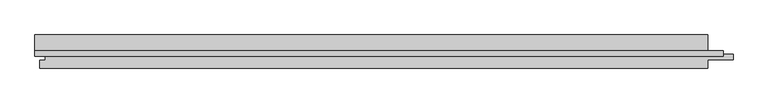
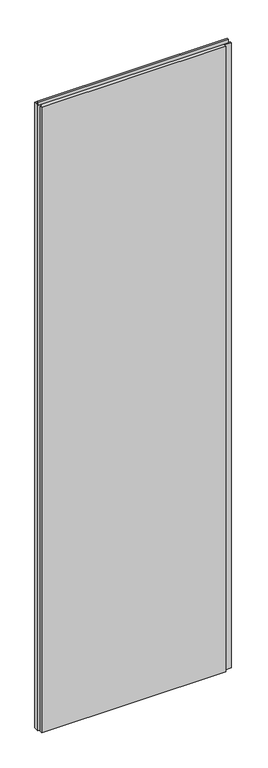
"""IFC4 building model written with IfcOpenShell, lengths in millimetres: plate geometry, Trimo_Qbiss Screen_Normal Panel-VERTICAL : HR - B."""

import ifcopenshell
import ifcopenshell.guid

model = None  # the IFC model being written
_history = None  # IfcOwnerHistory: only IFC2X3 demands one
_inside = {}  # id of a spatial element -> (the spatial element, [elements in it])
_under = {}  # id of a project, library or spatial element -> (it, [spatial elements below it])
_declared = {}  # id of a project -> (the project, [libraries it declares])
_typed = {}  # id of a type object -> (the type object, [elements of that type])
_made_of = {}  # id of a material, layer set ... -> (it, [elements and type objects made of it])


def new_model(schema):
    """Start an empty IFC model of exactly this schema.

    Asked for "IFC4X3", IfcOpenShell would pick the latest addendum, in which some entities
    have other attributes; the version numbers below select the first issue.
    IFC2X3 requires an IfcOwnerHistory on every rooted entity: one is made here for all.
    """
    global model, _history
    if schema == "IFC4X3":
        model = ifcopenshell.file(schema_version=(4, 3, 0, 0))
    else:
        model = ifcopenshell.file(schema=schema)
    _inside.clear()
    _under.clear()
    _declared.clear()
    _typed.clear()
    _made_of.clear()
    _history = None
    if model.schema == "IFC2X3":
        org = make("IfcOrganization", Name="unknown")
        user = make(
            "IfcPersonAndOrganization",
            ThePerson=make("IfcPerson", FamilyName="unknown"),
            TheOrganization=org,
        )
        app = make(
            "IfcApplication",
            ApplicationDeveloper=org,
            Version="unknown",
            ApplicationFullName="unknown",
            ApplicationIdentifier="unknown",
        )
        _history = make(
            "IfcOwnerHistory",
            OwningUser=user,
            OwningApplication=app,
            ChangeAction="ADDED",
            CreationDate=0,
        )
    return model


def make(cls, **values):
    """One entity of the class cls with the attributes given. An attribute that is None is left unset."""
    return model.create_entity(
        cls, **{name: value for name, value in values.items() if value is not None}
    )


def rooted(cls, **values):
    """An entity with a GlobalId (a new one), such as an element, a storey or a relation."""
    return make(cls, GlobalId=ifcopenshell.guid.new(), OwnerHistory=_history, **values)


def si_unit(unit_type, name, prefix=None):
    """IfcSIUnit, for example si_unit("LENGTHUNIT", "METRE", prefix="MILLI")."""
    return make("IfcSIUnit", UnitType=unit_type, Prefix=prefix, Name=name)


def assignment(units):
    """IfcUnitAssignment: the units of a project."""
    return None if units is None else make("IfcUnitAssignment", Units=units)


def point(xyz):
    """IfcCartesianPoint."""
    return None if xyz is None else make("IfcCartesianPoint", Coordinates=xyz)


def direction(xyz):
    """IfcDirection."""
    return None if xyz is None else make("IfcDirection", DirectionRatios=xyz)


def frame(location, z_axis=None, x_axis=None):
    """IfcAxis2Placement3D, a coordinate frame: its origin and axes. An axis left out is left unset."""
    return make(
        "IfcAxis2Placement3D",
        Location=point(location),
        Axis=direction(z_axis),
        RefDirection=direction(x_axis),
    )


def origin():
    """The frame at (0, 0, 0) with its axes left unset."""
    return frame((0.0, 0.0, 0.0))


def place(relative_to, where):
    """IfcLocalPlacement: puts the frame where relative to a parent placement (None: the world)."""
    return make(
        "IfcLocalPlacement", PlacementRelTo=relative_to, RelativePlacement=where
    )


def context(
    kind, dimensions, precision=None, world=None, true_north=None, identifier=None
):
    """IfcGeometricRepresentationContext, for example the 3D "Model" context."""
    return make(
        "IfcGeometricRepresentationContext",
        ContextIdentifier=identifier,
        ContextType=kind,
        CoordinateSpaceDimension=dimensions,
        Precision=precision,
        WorldCoordinateSystem=world,
        TrueNorth=true_north,
    )


def project(units=None, contexts=None):
    """IfcProject with its units and contexts."""
    return rooted(
        "IfcProject",
        Name="project",
        RepresentationContexts=contexts,
        UnitsInContext=assignment(units),
    )


def spatial(cls, under=None, at=None, **own):
    """A site, building, storey or space (cls), placed at a placement, below another one or the project."""
    s = rooted(cls, ObjectPlacement=at, **own)
    if under is not None:
        _under.setdefault(under.id(), (under, []))[1].append(s)
    return s


def polyline(points):
    """IfcPolyline through the points."""
    return make("IfcPolyline", Points=[point(p) for p in points])


def outline(outer, holes=None, kind="AREA"):
    """IfcArbitraryClosedProfileDef: a profile drawn as a closed curve; with holes, ...WithVoids."""
    if holes is None:
        return make("IfcArbitraryClosedProfileDef", ProfileType=kind, OuterCurve=outer)
    return make(
        "IfcArbitraryProfileDefWithVoids",
        ProfileType=kind,
        OuterCurve=outer,
        InnerCurves=holes,
    )


def extrude(swept, where, along, depth):
    """IfcExtrudedAreaSolid: the profile swept, set in the frame where, extruded along a direction by depth."""
    return make(
        "IfcExtrudedAreaSolid",
        SweptArea=swept,
        Position=where,
        ExtrudedDirection=direction(along),
        Depth=depth,
    )


def shape(context_of_items, identifier, shape_type, items):
    """IfcShapeRepresentation: the items that make up one representation, for example the "Body"."""
    return make(
        "IfcShapeRepresentation",
        ContextOfItems=context_of_items,
        RepresentationIdentifier=identifier,
        RepresentationType=shape_type,
        Items=items,
    )


def source(mapping_origin, context_of_items, identifier, shape_type, items):
    """IfcRepresentationMap: a shape defined once, which mapped items show again and again."""
    return make(
        "IfcRepresentationMap",
        MappingOrigin=mapping_origin,
        MappedRepresentation=shape(context_of_items, identifier, shape_type, items),
    )


def transform(
    local_origin,
    x_axis=None,
    y_axis=None,
    z_axis=None,
    scale=None,
    scale2=None,
    scale3=None,
    uniform=True,
):
    """IfcCartesianTransformationOperator3D, or its non-uniform kind. x_axis, y_axis, z_axis: its Axis1, 2, 3."""
    if uniform:
        return make(
            "IfcCartesianTransformationOperator3D",
            Axis1=direction(x_axis),
            Axis2=direction(y_axis),
            LocalOrigin=point(local_origin),
            Scale=scale,
            Axis3=direction(z_axis),
        )
    return make(
        "IfcCartesianTransformationOperator3DnonUniform",
        Axis1=direction(x_axis),
        Axis2=direction(y_axis),
        LocalOrigin=point(local_origin),
        Scale=scale,
        Axis3=direction(z_axis),
        Scale2=scale2,
        Scale3=scale3,
    )


def mapped(mapping_source, mapping_target):
    """IfcMappedItem: shows the shape of a source again, moved by a transform."""
    return make(
        "IfcMappedItem", MappingSource=mapping_source, MappingTarget=mapping_target
    )


def made_of(thing, what):
    """Note that an element or type object is made of a material, layer set ...; save() writes the relation."""
    if what is not None:
        _made_of.setdefault(what.id(), (what, []))[1].append(thing)
    return thing


def element(
    cls,
    number,
    at=None,
    inside=None,
    cuts=None,
    type_object=None,
    material=None,
    context=None,
    identifier="Body",
    shape_type=None,
    held_by="IfcProductDefinitionShape",
    body=None,
    shapes=None,
    **own,
):
    """One element of the class cls, such as IfcWall. Its Tag is "e" and its number.

    at: its placement. inside: the storey or other place that contains it. cuts: it is an
    opening in that element (IfcRelVoidsElement). A single representation is given by context,
    identifier, shape_type and body (its items); several are given by shapes. held_by: the class
    of the entity that holds the representations. save() writes the other relations.
    """
    e = rooted(cls, Tag="e%d" % number, ObjectPlacement=at, **own)
    if body is not None:
        shapes = [shape(context, identifier, shape_type, body)]
    if shapes is not None:
        e.Representation = make(held_by, Representations=shapes)
    if inside is not None:
        _inside.setdefault(inside.id(), (inside, []))[1].append(e)
    if cuts is not None:
        rooted(
            "IfcRelVoidsElement", RelatingBuildingElement=cuts, RelatedOpeningElement=e
        )
    if type_object is not None:
        _typed.setdefault(type_object.id(), (type_object, []))[1].append(e)
    return made_of(e, material)


def aggregate(whole, parts):
    """IfcRelAggregates: a whole, such as a stair, and the parts it consists of."""
    return rooted("IfcRelAggregates", RelatingObject=whole, RelatedObjects=parts)


def save(model, path):
    """Write the relations noted so far, then the file.

    IfcRelAggregates (storeys below a building ...), IfcRelContainedInSpatialStructure (elements
    in a storey), IfcRelDefinesByType, IfcRelAssociatesMaterial and IfcRelDeclares: one each for
    every whole, place, type object, material and project.
    """
    for whole, parts in _under.values():
        aggregate(whole, parts)
    for where, things in _inside.values():
        rooted(
            "IfcRelContainedInSpatialStructure",
            RelatedElements=things,
            RelatingStructure=where,
        )
    for kind, things in _typed.values():
        rooted("IfcRelDefinesByType", RelatedObjects=things, RelatingType=kind)
    for what, things in _made_of.values():
        rooted("IfcRelAssociatesMaterial", RelatedObjects=things, RelatingMaterial=what)
    for by, libraries in _declared.values():
        rooted("IfcRelDeclares", RelatingContext=by, RelatedDefinitions=libraries)
    model.write(path)


def plate_f1da3206(model_context):
    return source(origin(), model_context, "Body", "SweptSolid", [
        extrude(outline(polyline([(491.0, 97.0), (491.0, 102.6), (512.0, 102.6), (512.0, 97.0), (491.0, 97.0)])), frame((0.0, 0.0, 12.5), z_axis=(0.0, 0.0, 1.0), x_axis=(1.0, 0.0, 0.0)), (0.0, 0.0, 1.0), 3575.0),
        extrude(outline(polyline([(-513.0, 93.9), (-513.0, 102.6), (513.0, 102.6), (513.0, 93.9), (-513.0, 93.9)])), frame((0.0, 0.0, 3590.5), z_axis=(0.0, 0.0, 1.0), x_axis=(1.0, 0.0, 0.0)), (0.0, 0.0, 1.0), 19.0),
        extrude(outline(polyline([(490.0, 97.0), (527.5, 97.0), (527.5, 89.0), (490.0, 89.0), (490.0, 76.0), (-506.0, 76.0), (-506.0, 88.0), (-497.5, 88.0), (-497.5, 98.0), (-513.0, 98.0), (-513.0, 126.0), (490.0, 126.0), (490.0, 97.0)])), frame((0.0, 0.0, 12.5), z_axis=(0.0, 0.0, 1.0), x_axis=(1.0, 0.0, 0.0)), (0.0, 0.0, 1.0), 3575.0),
    ])


if __name__ == "__main__":
    model = new_model("IFC4")
    model_context = context("Model", 3, world=origin())
    ifc_project = project(units=[si_unit("LENGTHUNIT", "METRE", prefix="MILLI")], contexts=[model_context])
    site = spatial("IfcSite", under=ifc_project)
    building = spatial("IfcBuilding", under=site)
    placement = place(None, origin())
    plate_shape = plate_f1da3206(model_context)
    element("IfcPlate", 1, ObjectType="Trimo_Qbiss Screen_Normal Panel-VERTICAL : HR - B", at=placement, inside=building, context=model_context, shape_type="MappedRepresentation", body=[
        mapped(plate_shape, transform((0.0, 0.0, 0.0), x_axis=(1.0, 0.0, 0.0), y_axis=(0.0, 1.0, 0.0), z_axis=(0.0, 0.0, 1.0))),
    ])
    save(model, "model.ifc")
